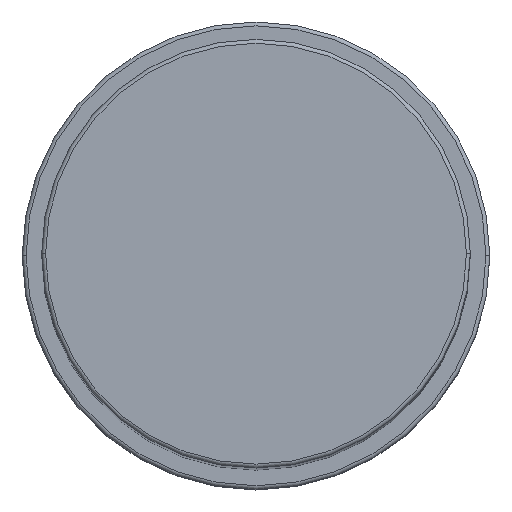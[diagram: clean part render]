
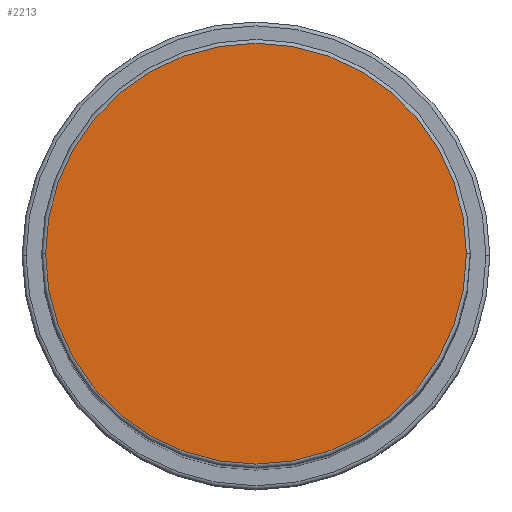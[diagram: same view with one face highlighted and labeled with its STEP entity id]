
A CAD part, top view. The second image highlights one B-rep face of the part: STEP entity #2213.
In plain terms, the highlighted planar face has unit normal (0, 0, 1).
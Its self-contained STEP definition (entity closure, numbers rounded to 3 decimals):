
#47 = DIRECTION ( 'NONE',  ( 1., 0., 0. ) ) ;
#357 = EDGE_CURVE ( 'NONE', #4149, #3472, #1005, .T. ) ;
#429 = DIRECTION ( 'NONE',  ( 1., 0., 0. ) ) ;
#659 = DIRECTION ( 'NONE',  ( 1., 0., 0. ) ) ;
#707 = EDGE_CURVE ( 'NONE', #3472, #4149, #3080, .T. ) ;
#876 = ORIENTED_EDGE ( 'NONE', *, *, #357, .T. ) ;
#1005 = CIRCLE ( 'NONE', #1861, 27. ) ;
#1249 = DIRECTION ( 'NONE',  ( 0., 0., 1. ) ) ;
#1570 = CARTESIAN_POINT ( 'NONE',  ( 0., 0., 168. ) ) ;
#1700 = AXIS2_PLACEMENT_3D ( 'NONE', #1570, #4688, #47 ) ;
#1861 = AXIS2_PLACEMENT_3D ( 'NONE', #2196, #4909, #659 ) ;
#2038 = AXIS2_PLACEMENT_3D ( 'NONE', #3877, #1249, #429 ) ;
#2196 = CARTESIAN_POINT ( 'NONE',  ( 0., 0., 168. ) ) ;
#2213 = ADVANCED_FACE ( 'NONE', ( #2274 ), #2336, .T. ) ;
#2274 = FACE_OUTER_BOUND ( 'NONE', #3164, .T. ) ;
#2336 = PLANE ( 'NONE',  #2038 ) ;
#2842 = CARTESIAN_POINT ( 'NONE',  ( 27., 0., 168. ) ) ;
#3080 = CIRCLE ( 'NONE', #1700, 27. ) ;
#3164 = EDGE_LOOP ( 'NONE', ( #876, #3178 ) ) ;
#3178 = ORIENTED_EDGE ( 'NONE', *, *, #707, .T. ) ;
#3472 = VERTEX_POINT ( 'NONE', #3533 ) ;
#3533 = CARTESIAN_POINT ( 'NONE',  ( -27., 0., 168. ) ) ;
#3877 = CARTESIAN_POINT ( 'NONE',  ( 0., 0., 168. ) ) ;
#4149 = VERTEX_POINT ( 'NONE', #2842 ) ;
#4688 = DIRECTION ( 'NONE',  ( 0., 0., 1. ) ) ;
#4909 = DIRECTION ( 'NONE',  ( 0., 0., 1. ) ) ;
